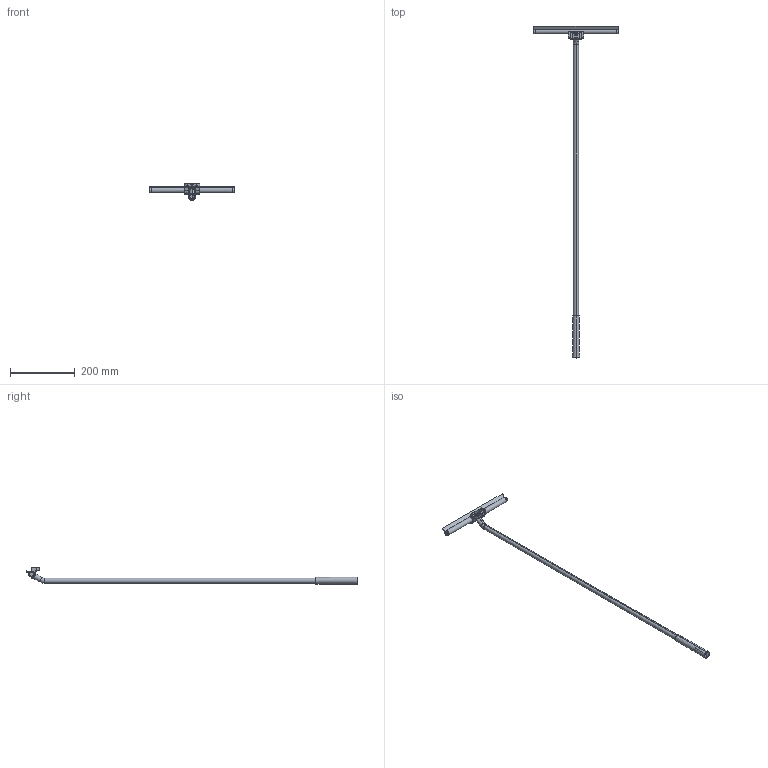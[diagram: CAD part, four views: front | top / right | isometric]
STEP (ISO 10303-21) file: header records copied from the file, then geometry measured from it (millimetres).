
FILE_DESCRIPTION((''),'2;1');
FILE_NAME('48753--00_SUB01_ASM','2024-10-25T11:13:15',('clra1'),(''),'CREO PARAMETRIC BY PTC INC, 2022244','CREO PARAMETRIC BY PTC INC, 2022244','');
FILE_SCHEMA(('CONFIG_CONTROL_DESIGN'));
Length unit declared in the file: millimetre
Products named in the file (8): 46900--; 4676200; 4676300; 46778--; 4677900; 4675100; 46778--_SUB01_ASM; 48753--00_SUB01_ASM
Assembly tree (8 placements, depth 3):
  48753--00_SUB01_ASM
    46900--
    4676200
    4676300
    46778--_SUB01_ASM
      46778--
      4677900  x2
      4675100
Bounding box: 260 x 1022.63 x 51 mm (x, y, z)
Volume: 124638.1 mm3; surface area: 158675.8 mm2
Topology: 7 solids, 7 shells, 578 faces, 1445 edges, 897 vertices
Faces by surface type: plane 280, cylinder 177, torus 54, sphere 26, bspline 22, cone 18, extrusion 1
Entity records: 20940 total; most frequent: CARTESIAN_POINT 7294, ORIENTED_EDGE 2822, DIRECTION 2800, EDGE_CURVE 1411, AXIS2_PLACEMENT_3D 938, VECTOR 924, LINE 923, VERTEX_POINT 877
